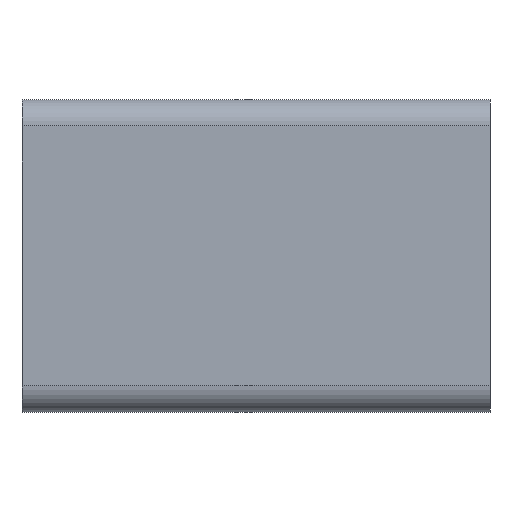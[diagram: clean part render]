
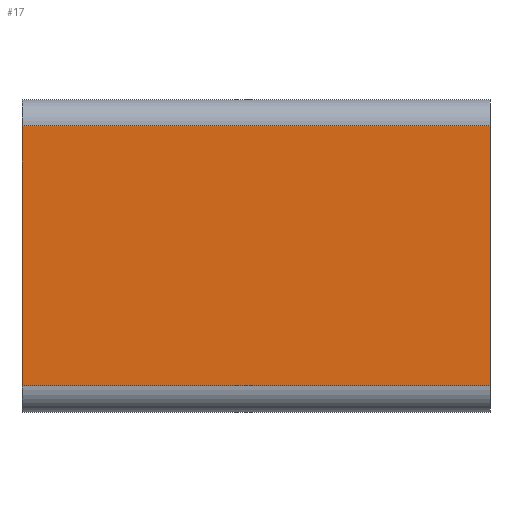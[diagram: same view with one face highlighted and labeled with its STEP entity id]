
A CAD part, top view. The second image highlights one B-rep face of the part: STEP entity #17.
In plain terms, the highlighted planar face has unit normal (0, 0, 1).
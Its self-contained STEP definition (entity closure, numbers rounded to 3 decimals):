
#17 = ADVANCED_FACE('',(#18),#32,.F.);
#18 = FACE_BOUND('',#19,.F.);
#19 = EDGE_LOOP('',(#20,#55,#83,#111));
#20 = ORIENTED_EDGE('',*,*,#21,.F.);
#21 = EDGE_CURVE('',#22,#24,#26,.T.);
#22 = VERTEX_POINT('',#23);
#23 = CARTESIAN_POINT('',(48.2,-37.139,-1.84));
#24 = VERTEX_POINT('',#25);
#25 = CARTESIAN_POINT('',(48.2,-27.139,-1.84));
#26 = SURFACE_CURVE('',#27,(#31,#43),.PCURVE_S1.);
#27 = LINE('',#28,#29);
#28 = CARTESIAN_POINT('',(48.2,-38.139,-1.84));
#29 = VECTOR('',#30,1.);
#30 = DIRECTION('',(0.,1.,0.));
#31 = PCURVE('',#32,#37);
#32 = PLANE('',#33);
#33 = AXIS2_PLACEMENT_3D('',#34,#35,#36);
#34 = CARTESIAN_POINT('',(30.2,-38.139,-1.84));
#35 = DIRECTION('',(0.,0.,-1.));
#36 = DIRECTION('',(1.,0.,0.));
#37 = DEFINITIONAL_REPRESENTATION('',(#38),#42);
#38 = LINE('',#39,#40);
#39 = CARTESIAN_POINT('',(18.,0.));
#40 = VECTOR('',#41,1.);
#41 = DIRECTION('',(0.,-1.));
#42 = ( GEOMETRIC_REPRESENTATION_CONTEXT(2) 
PARAMETRIC_REPRESENTATION_CONTEXT() REPRESENTATION_CONTEXT('2D SPACE',''
  ) );
#43 = PCURVE('',#44,#49);
#44 = PLANE('',#45);
#45 = AXIS2_PLACEMENT_3D('',#46,#47,#48);
#46 = CARTESIAN_POINT('',(48.2,-38.139,-1.84));
#47 = DIRECTION('',(1.,0.,0.));
#48 = DIRECTION('',(0.,0.,-1.));
#49 = DEFINITIONAL_REPRESENTATION('',(#50),#54);
#50 = LINE('',#51,#52);
#51 = CARTESIAN_POINT('',(0.,0.));
#52 = VECTOR('',#53,1.);
#53 = DIRECTION('',(0.,1.));
#54 = ( GEOMETRIC_REPRESENTATION_CONTEXT(2) 
PARAMETRIC_REPRESENTATION_CONTEXT() REPRESENTATION_CONTEXT('2D SPACE',''
  ) );
#55 = ORIENTED_EDGE('',*,*,#56,.F.);
#56 = EDGE_CURVE('',#57,#22,#59,.T.);
#57 = VERTEX_POINT('',#58);
#58 = CARTESIAN_POINT('',(30.2,-37.139,-1.84));
#59 = SURFACE_CURVE('',#60,(#64,#71),.PCURVE_S1.);
#60 = LINE('',#61,#62);
#61 = CARTESIAN_POINT('',(30.2,-37.139,-1.84));
#62 = VECTOR('',#63,1.);
#63 = DIRECTION('',(1.,0.,0.));
#64 = PCURVE('',#32,#65);
#65 = DEFINITIONAL_REPRESENTATION('',(#66),#70);
#66 = LINE('',#67,#68);
#67 = CARTESIAN_POINT('',(0.,-1.));
#68 = VECTOR('',#69,1.);
#69 = DIRECTION('',(1.,0.));
#70 = ( GEOMETRIC_REPRESENTATION_CONTEXT(2) 
PARAMETRIC_REPRESENTATION_CONTEXT() REPRESENTATION_CONTEXT('2D SPACE',''
  ) );
#71 = PCURVE('',#72,#77);
#72 = CYLINDRICAL_SURFACE('',#73,1.);
#73 = AXIS2_PLACEMENT_3D('',#74,#75,#76);
#74 = CARTESIAN_POINT('',(30.2,-37.139,-2.84));
#75 = DIRECTION('',(1.,0.,0.));
#76 = DIRECTION('',(0.,0.,1.));
#77 = DEFINITIONAL_REPRESENTATION('',(#78),#82);
#78 = LINE('',#79,#80);
#79 = CARTESIAN_POINT('',(0.,0.));
#80 = VECTOR('',#81,1.);
#81 = DIRECTION('',(0.,1.));
#82 = ( GEOMETRIC_REPRESENTATION_CONTEXT(2) 
PARAMETRIC_REPRESENTATION_CONTEXT() REPRESENTATION_CONTEXT('2D SPACE',''
  ) );
#83 = ORIENTED_EDGE('',*,*,#84,.T.);
#84 = EDGE_CURVE('',#57,#85,#87,.T.);
#85 = VERTEX_POINT('',#86);
#86 = CARTESIAN_POINT('',(30.2,-27.139,-1.84));
#87 = SURFACE_CURVE('',#88,(#92,#99),.PCURVE_S1.);
#88 = LINE('',#89,#90);
#89 = CARTESIAN_POINT('',(30.2,-38.139,-1.84));
#90 = VECTOR('',#91,1.);
#91 = DIRECTION('',(0.,1.,0.));
#92 = PCURVE('',#32,#93);
#93 = DEFINITIONAL_REPRESENTATION('',(#94),#98);
#94 = LINE('',#95,#96);
#95 = CARTESIAN_POINT('',(0.,0.));
#96 = VECTOR('',#97,1.);
#97 = DIRECTION('',(0.,-1.));
#98 = ( GEOMETRIC_REPRESENTATION_CONTEXT(2) 
PARAMETRIC_REPRESENTATION_CONTEXT() REPRESENTATION_CONTEXT('2D SPACE',''
  ) );
#99 = PCURVE('',#100,#105);
#100 = PLANE('',#101);
#101 = AXIS2_PLACEMENT_3D('',#102,#103,#104);
#102 = CARTESIAN_POINT('',(30.2,-38.139,-1.84));
#103 = DIRECTION('',(1.,0.,0.));
#104 = DIRECTION('',(0.,0.,-1.));
#105 = DEFINITIONAL_REPRESENTATION('',(#106),#110);
#106 = LINE('',#107,#108);
#107 = CARTESIAN_POINT('',(0.,0.));
#108 = VECTOR('',#109,1.);
#109 = DIRECTION('',(0.,1.));
#110 = ( GEOMETRIC_REPRESENTATION_CONTEXT(2) 
PARAMETRIC_REPRESENTATION_CONTEXT() REPRESENTATION_CONTEXT('2D SPACE',''
  ) );
#111 = ORIENTED_EDGE('',*,*,#112,.T.);
#112 = EDGE_CURVE('',#85,#24,#113,.T.);
#113 = SURFACE_CURVE('',#114,(#118,#125),.PCURVE_S1.);
#114 = LINE('',#115,#116);
#115 = CARTESIAN_POINT('',(30.2,-27.139,-1.84));
#116 = VECTOR('',#117,1.);
#117 = DIRECTION('',(1.,0.,0.));
#118 = PCURVE('',#32,#119);
#119 = DEFINITIONAL_REPRESENTATION('',(#120),#124);
#120 = LINE('',#121,#122);
#121 = CARTESIAN_POINT('',(0.,-11.));
#122 = VECTOR('',#123,1.);
#123 = DIRECTION('',(1.,0.));
#124 = ( GEOMETRIC_REPRESENTATION_CONTEXT(2) 
PARAMETRIC_REPRESENTATION_CONTEXT() REPRESENTATION_CONTEXT('2D SPACE',''
  ) );
#125 = PCURVE('',#126,#131);
#126 = CYLINDRICAL_SURFACE('',#127,1.);
#127 = AXIS2_PLACEMENT_3D('',#128,#129,#130);
#128 = CARTESIAN_POINT('',(30.2,-27.139,-2.84));
#129 = DIRECTION('',(1.,0.,0.));
#130 = DIRECTION('',(0.,0.,1.));
#131 = DEFINITIONAL_REPRESENTATION('',(#132),#136);
#132 = LINE('',#133,#134);
#133 = CARTESIAN_POINT('',(-0.,0.));
#134 = VECTOR('',#135,1.);
#135 = DIRECTION('',(-0.,1.));
#136 = ( GEOMETRIC_REPRESENTATION_CONTEXT(2) 
PARAMETRIC_REPRESENTATION_CONTEXT() REPRESENTATION_CONTEXT('2D SPACE',''
  ) );
